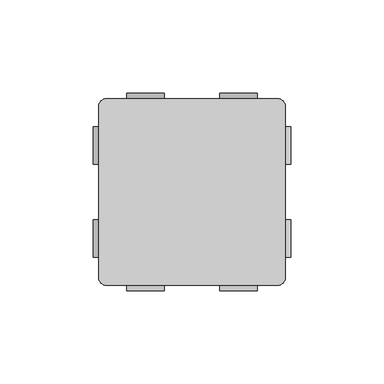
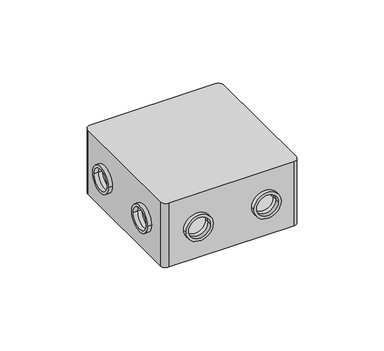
"""IFC4 building model written with IfcOpenShell, lengths in millimetres: proxy geometry, 20308_ジョイントボックス_強電用 : 照明設備."""

from ifc_helpers import new_model, si_unit, point, frame, frame_2d, origin, place, context, project, spatial, polyline, circle_curve, trimmed, segment, composite_curve, outline, extrude, source, transform, mapped, element, save
from ifc_brep_helpers import plane_surface, cylinder_surface, revolved_surface, advanced_brep


def electrical_fixtures_9a8084c4(model_context):
    return source(origin(), model_context, "Body", "SolidModel", [
        extrude(outline(composite_curve([segment(trimmed(circle_curve(frame_2d((25.0, 25.0)), 10.0), [point((15.0, 25.0))], [point((35.0, 25.0))], False, "CARTESIAN"), True, "CONTINUOUS"), segment(trimmed(circle_curve(frame_2d((25.0, 25.0)), 10.0), [point((35.0, 25.0))], [point((15.0, 25.0))], False, "CARTESIAN"), True, "CONTINUOUS")], self_intersect=False), holes=[composite_curve([segment(trimmed(circle_curve(frame_2d((25.0, 25.0)), 8.0), [point((17.0, 25.0))], [point((33.0, 25.0))], True, "CARTESIAN"), True, "CONTINUOUS"), segment(trimmed(circle_curve(frame_2d((25.0, 25.0)), 8.0), [point((33.0, 25.0))], [point((17.0, 25.0))], True, "CARTESIAN"), True, "CONTINUOUS")], self_intersect=False)]), frame((-53.0, 0.0, 0.0), z_axis=(1.0, 0.0, 0.0), x_axis=(0.0, 1.0, 0.0)), (0.0, 0.0, 1.0), 3.0),
        extrude(outline(composite_curve([segment(trimmed(circle_curve(frame_2d((-25.0, 25.0)), 10.0), [point((-35.0, 25.0))], [point((-15.0, 25.0))], False, "CARTESIAN"), True, "CONTINUOUS"), segment(trimmed(circle_curve(frame_2d((-25.0, 25.0)), 10.0), [point((-15.0, 25.0))], [point((-35.0, 25.0))], False, "CARTESIAN"), True, "CONTINUOUS")], self_intersect=False), holes=[composite_curve([segment(trimmed(circle_curve(frame_2d((-25.0, 25.0)), 8.0), [point((-33.0, 25.0))], [point((-17.0, 25.0))], True, "CARTESIAN"), True, "CONTINUOUS"), segment(trimmed(circle_curve(frame_2d((-25.0, 25.0)), 8.0), [point((-17.0, 25.0))], [point((-33.0, 25.0))], True, "CARTESIAN"), True, "CONTINUOUS")], self_intersect=False)]), frame((-53.0, 0.0, 0.0), z_axis=(1.0, 0.0, 0.0), x_axis=(0.0, 1.0, 0.0)), (0.0, 0.0, 1.0), 3.0),
        extrude(outline(composite_curve([segment(trimmed(circle_curve(frame_2d((25.0, 25.0)), 10.0), [point((15.0, 25.0))], [point((35.0, 25.0))], False, "CARTESIAN"), True, "CONTINUOUS"), segment(trimmed(circle_curve(frame_2d((25.0, 25.0)), 10.0), [point((35.0, 25.0))], [point((15.0, 25.0))], False, "CARTESIAN"), True, "CONTINUOUS")], self_intersect=False), holes=[composite_curve([segment(trimmed(circle_curve(frame_2d((25.0, 25.0)), 8.0), [point((17.0, 25.0))], [point((33.0, 25.0))], True, "CARTESIAN"), True, "CONTINUOUS"), segment(trimmed(circle_curve(frame_2d((25.0, 25.0)), 8.0), [point((33.0, 25.0))], [point((17.0, 25.0))], True, "CARTESIAN"), True, "CONTINUOUS")], self_intersect=False)]), frame((50.0, 0.0, 0.0), z_axis=(1.0, 0.0, 0.0), x_axis=(0.0, 1.0, 0.0)), (0.0, 0.0, 1.0), 3.0),
        extrude(outline(composite_curve([segment(trimmed(circle_curve(frame_2d((-25.0, 25.0)), 10.0), [point((-35.0, 25.0))], [point((-15.0, 25.0))], False, "CARTESIAN"), True, "CONTINUOUS"), segment(trimmed(circle_curve(frame_2d((-25.0, 25.0)), 10.0), [point((-15.0, 25.0))], [point((-35.0, 25.0))], False, "CARTESIAN"), True, "CONTINUOUS")], self_intersect=False), holes=[composite_curve([segment(trimmed(circle_curve(frame_2d((-25.0, 25.0)), 8.0), [point((-33.0, 25.0))], [point((-17.0, 25.0))], True, "CARTESIAN"), True, "CONTINUOUS"), segment(trimmed(circle_curve(frame_2d((-25.0, 25.0)), 8.0), [point((-17.0, 25.0))], [point((-33.0, 25.0))], True, "CARTESIAN"), True, "CONTINUOUS")], self_intersect=False)]), frame((50.0, 0.0, 0.0), z_axis=(1.0, 0.0, 0.0), x_axis=(0.0, 1.0, 0.0)), (0.0, 0.0, 1.0), 3.0),
        extrude(outline(composite_curve([segment(trimmed(circle_curve(frame_2d((25.0, -25.0)), 10.0), [point((25.0, -15.0))], [point((25.0, -35.0))], False, "CARTESIAN"), True, "CONTINUOUS"), segment(trimmed(circle_curve(frame_2d((25.0, -25.0)), 10.0), [point((25.0, -35.0))], [point((25.0, -15.0))], False, "CARTESIAN"), True, "CONTINUOUS")], self_intersect=False), holes=[composite_curve([segment(trimmed(circle_curve(frame_2d((25.0, -25.0)), 8.0), [point((25.0, -17.0))], [point((25.0, -33.0))], True, "CARTESIAN"), True, "CONTINUOUS"), segment(trimmed(circle_curve(frame_2d((25.0, -25.0)), 8.0), [point((25.0, -33.0))], [point((25.0, -17.0))], True, "CARTESIAN"), True, "CONTINUOUS")], self_intersect=False)]), frame((0.0, 50.0, 0.0), z_axis=(0.0, 1.0, 0.0), x_axis=(0.0, 0.0, 1.0)), (0.0, 0.0, 1.0), 3.0),
        extrude(outline(composite_curve([segment(trimmed(circle_curve(frame_2d((25.0, 25.0)), 10.0), [point((25.0, 15.0))], [point((25.0, 35.0))], False, "CARTESIAN"), True, "CONTINUOUS"), segment(trimmed(circle_curve(frame_2d((25.0, 25.0)), 10.0), [point((25.0, 35.0))], [point((25.0, 15.0))], False, "CARTESIAN"), True, "CONTINUOUS")], self_intersect=False), holes=[composite_curve([segment(trimmed(circle_curve(frame_2d((25.0, 25.0)), 8.0), [point((25.0, 17.0))], [point((25.0, 33.0))], True, "CARTESIAN"), True, "CONTINUOUS"), segment(trimmed(circle_curve(frame_2d((25.0, 25.0)), 8.0), [point((25.0, 33.0))], [point((25.0, 17.0))], True, "CARTESIAN"), True, "CONTINUOUS")], self_intersect=False)]), frame((0.0, 50.0, 0.0), z_axis=(0.0, 1.0, 0.0), x_axis=(0.0, 0.0, 1.0)), (0.0, 0.0, 1.0), 3.0),
        extrude(outline(composite_curve([segment(trimmed(circle_curve(frame_2d((25.0, -25.0)), 10.0), [point((25.0, -15.0))], [point((25.0, -35.0))], False, "CARTESIAN"), True, "CONTINUOUS"), segment(trimmed(circle_curve(frame_2d((25.0, -25.0)), 10.0), [point((25.0, -35.0))], [point((25.0, -15.0))], False, "CARTESIAN"), True, "CONTINUOUS")], self_intersect=False), holes=[composite_curve([segment(trimmed(circle_curve(frame_2d((25.0, -25.0)), 8.0), [point((25.0, -17.0))], [point((25.0, -33.0))], True, "CARTESIAN"), True, "CONTINUOUS"), segment(trimmed(circle_curve(frame_2d((25.0, -25.0)), 8.0), [point((25.0, -33.0))], [point((25.0, -17.0))], True, "CARTESIAN"), True, "CONTINUOUS")], self_intersect=False)]), frame((0.0, -53.0, 0.0), z_axis=(0.0, 1.0, 0.0), x_axis=(0.0, 0.0, 1.0)), (0.0, 0.0, 1.0), 3.0),
        extrude(outline(composite_curve([segment(trimmed(circle_curve(frame_2d((25.0, 25.0)), 10.0), [point((25.0, 15.0))], [point((25.0, 35.0))], False, "CARTESIAN"), True, "CONTINUOUS"), segment(trimmed(circle_curve(frame_2d((25.0, 25.0)), 10.0), [point((25.0, 35.0))], [point((25.0, 15.0))], False, "CARTESIAN"), True, "CONTINUOUS")], self_intersect=False), holes=[composite_curve([segment(trimmed(circle_curve(frame_2d((25.0, 25.0)), 8.0), [point((25.0, 17.0))], [point((25.0, 33.0))], True, "CARTESIAN"), True, "CONTINUOUS"), segment(trimmed(circle_curve(frame_2d((25.0, 25.0)), 8.0), [point((25.0, 33.0))], [point((25.0, 17.0))], True, "CARTESIAN"), True, "CONTINUOUS")], self_intersect=False)]), frame((0.0, -53.0, 0.0), z_axis=(0.0, 1.0, 0.0), x_axis=(0.0, 0.0, 1.0)), (0.0, 0.0, 1.0), 3.0),
        advanced_brep(
        [(40.0, -36.9820829, 1.0), (40.0, -43.0179171, 1.0), (40.0, -36.9820829, 0.0), (40.0, -43.0179171, 0.0), (40.5, -37.6708132, 0.0), (39.5, -37.6708132, 0.0), (39.5, -38.7, 0.0), (38.7, -39.5, 0.0), (37.6708132, -39.5, 0.0), (37.6708132, -40.5, 0.0), (38.7035028, -40.5, 0.0), (39.5, -41.2964972, 0.0), (39.5, -42.3291868, 0.0), (40.5, -42.3291868, 0.0), (40.5, -41.2574077, 0.0), (41.2574077, -40.5, 0.0), (42.3291868, -40.5, 0.0), (42.3291868, -39.5, 0.0), (41.3144051, -39.5, 0.0), (40.5, -38.6855949, 0.0), (40.5, -37.6708132, 0.2), (40.5, -38.6855949, 0.2), (41.3144051, -39.5, 0.2), (42.3291868, -39.5, 0.2), (42.3291868, -40.5, 0.2), (41.2574077, -40.5, 0.2), (40.5, -41.2574077, 0.2), (40.5, -42.3291868, 0.2), (39.5, -42.3291868, 0.2), (39.5, -41.2964972, 0.2), (38.7035028, -40.5, 0.2), (37.6708132, -40.5, 0.2), (37.6708132, -39.5, 0.2), (38.7, -39.5, 0.2), (39.5, -38.7, 0.2), (39.5, -37.6708132, 0.2)],
        [
            (0, 1, circle_curve(frame((40.0, -40.0, 1.0), z_axis=(0.0, 0.0, 1.0), x_axis=(0.0, -1.0, 0.0)), 3.0179171)),
            (1, 0, circle_curve(frame((40.0, -40.0, 1.0), z_axis=(0.0, 0.0, 1.0), x_axis=(0.0, -1.0, 0.0)), 3.0179171)),
            (2, 3, circle_curve(frame((40.0, -40.0, 0.0), z_axis=(0.0, 0.0, -1.0), x_axis=(0.0, -1.0, 0.0)), 3.0179171)),
            (3, 2, circle_curve(frame((40.0, -40.0, 0.0), z_axis=(0.0, 0.0, -1.0), x_axis=(0.0, -1.0, 0.0)), 3.0179171)),
            (4, 5),
            (5, 6),
            (6, 7, circle_curve(frame((38.7, -38.7, 0.0), z_axis=(0.0, 0.0, -1.0), x_axis=(1.0, 0.0, 0.0)), 0.8)),
            (7, 8),
            (8, 9),
            (9, 10),
            (10, 11, circle_curve(frame((38.7035028, -41.2964972, 0.0), z_axis=(0.0, 0.0, -1.0), x_axis=(1.0, 0.0, 0.0)), 0.7964972)),
            (11, 12),
            (12, 13),
            (13, 14),
            (14, 15, circle_curve(frame((41.2574077, -41.2574077, 0.0), z_axis=(0.0, 0.0, -1.0), x_axis=(1.0, 0.0, 0.0)), 0.7574077)),
            (15, 16),
            (16, 17),
            (17, 18),
            (18, 19, circle_curve(frame((41.3144051, -38.6855949, 0.0), z_axis=(0.0, 0.0, -1.0), x_axis=(1.0, 0.0, 0.0)), 0.8144051)),
            (19, 4),
            (1, 3),
            (2, 0),
            (20, 21),
            (21, 22, circle_curve(frame((41.3144051, -38.6855949, 0.2), z_axis=(0.0, 0.0, 1.0), x_axis=(1.0, 0.0, 0.0)), 0.8144051)),
            (22, 23),
            (23, 24),
            (24, 25),
            (25, 26, circle_curve(frame((41.2574077, -41.2574077, 0.2), z_axis=(0.0, 0.0, 1.0), x_axis=(1.0, 0.0, 0.0)), 0.7574077)),
            (26, 27),
            (27, 28),
            (28, 29),
            (29, 30, circle_curve(frame((38.7035028, -41.2964972, 0.2), z_axis=(0.0, 0.0, 1.0), x_axis=(1.0, 0.0, 0.0)), 0.7964972)),
            (30, 31),
            (31, 32),
            (32, 33),
            (33, 34, circle_curve(frame((38.7, -38.7, 0.2), z_axis=(0.0, 0.0, 1.0), x_axis=(1.0, 0.0, 0.0)), 0.8)),
            (34, 35),
            (35, 20),
            (35, 5),
            (4, 20),
            (34, 6),
            (33, 7),
            (32, 8),
            (31, 9),
            (30, 10),
            (29, 11),
            (28, 12),
            (27, 13),
            (26, 14),
            (25, 15),
            (24, 16),
            (23, 17),
            (22, 18),
            (21, 19),
        ],
        [
            plane_surface(frame((40.0, -43.0179171, 1.0), z_axis=(0.0, 0.0, 1.0), x_axis=(1.0, 0.0, 0.0))),
            plane_surface(frame((40.0, -43.0179171, 0.0), z_axis=(0.0, 0.0, -1.0), x_axis=(-1.0, 0.0, 0.0))),
            cylinder_surface(frame((40.0, -40.0, 1.0), z_axis=(0.0, 0.0, -1.0), x_axis=(0.0, -1.0, 0.0)), 3.0179171),
            plane_surface(frame((39.5, -37.6708132, 0.2), z_axis=(0.0, 0.0, -1.0), x_axis=(-1.0, 0.0, 0.0))),
            plane_surface(frame((40.5, -37.6708132, 0.2), z_axis=(0.0, -1.0, 0.0), x_axis=(0.0, 0.0, -1.0))),
            plane_surface(frame((39.5, -37.6708132, 0.2), z_axis=(1.0, 0.0, 0.0), x_axis=(0.0, 0.0, -1.0))),
            cylinder_surface(frame((38.7, -38.7, -3.0), z_axis=(0.0, 0.0, -1.0), x_axis=(1.0, 0.0, 0.0)), 0.8),
            plane_surface(frame((38.7, -39.5, 0.2), z_axis=(0.0, -1.0, 0.0), x_axis=(0.0, 0.0, -1.0))),
            plane_surface(frame((37.6708132, -39.5, 0.2), z_axis=(1.0, 0.0, 0.0), x_axis=(0.0, 0.0, -1.0))),
            plane_surface(frame((37.6708132, -40.5, 0.2), z_axis=(0.0, 1.0, 0.0), x_axis=(0.0, 0.0, -1.0))),
            cylinder_surface(frame((38.7035028, -41.2964972, -3.0), z_axis=(0.0, 0.0, -1.0), x_axis=(1.0, 0.0, 0.0)), 0.7964972),
            plane_surface(frame((39.5, -41.2964972, 0.2), z_axis=(1.0, 0.0, 0.0), x_axis=(0.0, 0.0, -1.0))),
            plane_surface(frame((39.5, -42.3291868, 0.2), z_axis=(0.0, 1.0, 0.0), x_axis=(0.0, 0.0, -1.0))),
            plane_surface(frame((40.5, -42.3291868, 0.2), z_axis=(-1.0, 0.0, 0.0), x_axis=(0.0, 0.0, -1.0))),
            cylinder_surface(frame((41.2574077, -41.2574077, -3.0), z_axis=(0.0, 0.0, -1.0), x_axis=(1.0, 0.0, 0.0)), 0.7574077),
            plane_surface(frame((41.2574077, -40.5, 0.2), z_axis=(0.0, 1.0, 0.0), x_axis=(0.0, 0.0, -1.0))),
            plane_surface(frame((42.3291868, -40.5, 0.2), z_axis=(-1.0, 0.0, 0.0), x_axis=(0.0, 0.0, -1.0))),
            plane_surface(frame((42.3291868, -39.5, 0.2), z_axis=(0.0, -1.0, 0.0), x_axis=(0.0, 0.0, -1.0))),
            cylinder_surface(frame((41.3144051, -38.6855949, -3.0), z_axis=(0.0, 0.0, -1.0), x_axis=(1.0, 0.0, 0.0)), 0.8144051),
            plane_surface(frame((40.5, -38.6855949, 0.2), z_axis=(-1.0, 0.0, 0.0), x_axis=(0.0, 0.0, -1.0))),
        ],
        [
            (0, [[1, 2]]),
            (1, [[3, 4], [5, 6, 7, 8, 9, 10, 11, 12, 13, 14, 15, 16, 17, 18, 19, 20]]),
            (2, [[-2, 21, -3, 22]]),
            (2, [[-1, -22, -4, -21]]),
            (3, [[23, 24, 25, 26, 27, 28, 29, 30, 31, 32, 33, 34, 35, 36, 37, 38]]),
            (4, [[-38, 39, -5, 40]]),
            (5, [[-37, 41, -6, -39]]),
            (6, [[-36, 42, -7, -41]]),
            (7, [[-35, 43, -8, -42]]),
            (8, [[-34, 44, -9, -43]]),
            (9, [[-33, 45, -10, -44]]),
            (10, [[-32, 46, -11, -45]]),
            (11, [[-31, 47, -12, -46]]),
            (12, [[-30, 48, -13, -47]]),
            (13, [[-29, 49, -14, -48]]),
            (14, [[-28, 50, -15, -49]]),
            (15, [[-27, 51, -16, -50]]),
            (16, [[-26, 52, -17, -51]]),
            (17, [[-25, 53, -18, -52]]),
            (18, [[-24, 54, -19, -53]]),
            (19, [[-23, -40, -20, -54]]),
        ],
    ),
        advanced_brep(
        [(-40.0, -43.0179171, 1.0), (-40.0, -36.9820829, 1.0), (-40.0, -43.0179171, 0.0), (-40.0, -36.9820829, 0.0), (-39.5, -37.6708132, 0.0), (-40.5, -37.6708132, 0.0), (-40.5, -38.7, 0.0), (-41.3, -39.5, 0.0), (-42.3291868, -39.5, 0.0), (-42.3291868, -40.5, 0.0), (-41.2964972, -40.5, 0.0), (-40.5, -41.2964972, 0.0), (-40.5, -42.3291868, 0.0), (-39.5, -42.3291868, 0.0), (-39.5, -41.2574077, 0.0), (-38.7425923, -40.5, 0.0), (-37.6708132, -40.5, 0.0), (-37.6708132, -39.5, 0.0), (-38.6855949, -39.5, 0.0), (-39.5, -38.6855949, 0.0), (-39.5, -37.6708132, 0.2), (-39.5, -38.6855949, 0.2), (-38.6855949, -39.5, 0.2), (-37.6708132, -39.5, 0.2), (-37.6708132, -40.5, 0.2), (-38.7425923, -40.5, 0.2), (-39.5, -41.2574077, 0.2), (-39.5, -42.3291868, 0.2), (-40.5, -42.3291868, 0.2), (-40.5, -41.2964972, 0.2), (-41.2964972, -40.5, 0.2), (-42.3291868, -40.5, 0.2), (-42.3291868, -39.5, 0.2), (-41.3, -39.5, 0.2), (-40.5, -38.7, 0.2), (-40.5, -37.6708132, 0.2)],
        [
            (0, 1, circle_curve(frame((-40.0, -40.0, 1.0), z_axis=(0.0, 0.0, 1.0), x_axis=(0.0, 1.0, 0.0)), 3.0179171)),
            (1, 0, circle_curve(frame((-40.0, -40.0, 1.0), z_axis=(0.0, 0.0, 1.0), x_axis=(0.0, 1.0, 0.0)), 3.0179171)),
            (2, 3, circle_curve(frame((-40.0, -40.0, 0.0), z_axis=(0.0, 0.0, -1.0), x_axis=(0.0, 1.0, 0.0)), 3.0179171)),
            (3, 2, circle_curve(frame((-40.0, -40.0, 0.0), z_axis=(0.0, 0.0, -1.0), x_axis=(0.0, 1.0, 0.0)), 3.0179171)),
            (4, 5),
            (5, 6),
            (6, 7, circle_curve(frame((-41.3, -38.7, 0.0), z_axis=(0.0, 0.0, -1.0), x_axis=(1.0, 0.0, 0.0)), 0.8)),
            (7, 8),
            (8, 9),
            (9, 10),
            (10, 11, circle_curve(frame((-41.2964972, -41.2964972, 0.0), z_axis=(0.0, 0.0, -1.0), x_axis=(1.0, 0.0, 0.0)), 0.7964972)),
            (11, 12),
            (12, 13),
            (13, 14),
            (14, 15, circle_curve(frame((-38.7425923, -41.2574077, 0.0), z_axis=(0.0, 0.0, -1.0), x_axis=(1.0, 0.0, 0.0)), 0.7574077)),
            (15, 16),
            (16, 17),
            (17, 18),
            (18, 19, circle_curve(frame((-38.6855949, -38.6855949, 0.0), z_axis=(0.0, 0.0, -1.0), x_axis=(1.0, 0.0, 0.0)), 0.8144051)),
            (19, 4),
            (0, 2),
            (3, 1),
            (20, 21),
            (21, 22, circle_curve(frame((-38.6855949, -38.6855949, 0.2), z_axis=(0.0, 0.0, 1.0), x_axis=(1.0, 0.0, 0.0)), 0.8144051)),
            (22, 23),
            (23, 24),
            (24, 25),
            (25, 26, circle_curve(frame((-38.7425923, -41.2574077, 0.2), z_axis=(0.0, 0.0, 1.0), x_axis=(1.0, 0.0, 0.0)), 0.7574077)),
            (26, 27),
            (27, 28),
            (28, 29),
            (29, 30, circle_curve(frame((-41.2964972, -41.2964972, 0.2), z_axis=(0.0, 0.0, 1.0), x_axis=(1.0, 0.0, 0.0)), 0.7964972)),
            (30, 31),
            (31, 32),
            (32, 33),
            (33, 34, circle_curve(frame((-41.3, -38.7, 0.2), z_axis=(0.0, 0.0, 1.0), x_axis=(1.0, 0.0, 0.0)), 0.8)),
            (34, 35),
            (35, 20),
            (35, 5),
            (4, 20),
            (34, 6),
            (33, 7),
            (32, 8),
            (31, 9),
            (30, 10),
            (29, 11),
            (28, 12),
            (27, 13),
            (26, 14),
            (25, 15),
            (24, 16),
            (23, 17),
            (22, 18),
            (21, 19),
        ],
        [
            plane_surface(frame((-40.0, -36.9820829, 1.0), z_axis=(0.0, 0.0, 1.0), x_axis=(-1.0, 0.0, 0.0))),
            plane_surface(frame((-40.0, -36.9820829, 0.0), z_axis=(0.0, 0.0, -1.0), x_axis=(1.0, 0.0, 0.0))),
            cylinder_surface(frame((-40.0, -40.0, 1.0), z_axis=(0.0, 0.0, -1.0), x_axis=(0.0, 1.0, 0.0)), 3.0179171),
            plane_surface(frame((-40.5, -37.6708132, 0.2), z_axis=(0.0, 0.0, -1.0), x_axis=(-1.0, 0.0, 0.0))),
            plane_surface(frame((-39.5, -37.6708132, 0.2), z_axis=(0.0, -1.0, 0.0), x_axis=(0.0, 0.0, -1.0))),
            plane_surface(frame((-40.5, -37.6708132, 0.2), z_axis=(1.0, 0.0, 0.0), x_axis=(0.0, 0.0, -1.0))),
            cylinder_surface(frame((-41.3, -38.7, -3.0), z_axis=(0.0, 0.0, -1.0), x_axis=(1.0, 0.0, 0.0)), 0.8),
            plane_surface(frame((-41.3, -39.5, 0.2), z_axis=(0.0, -1.0, 0.0), x_axis=(0.0, 0.0, -1.0))),
            plane_surface(frame((-42.3291868, -39.5, 0.2), z_axis=(1.0, 0.0, 0.0), x_axis=(0.0, 0.0, -1.0))),
            plane_surface(frame((-42.3291868, -40.5, 0.2), z_axis=(0.0, 1.0, 0.0), x_axis=(0.0, 0.0, -1.0))),
            cylinder_surface(frame((-41.2964972, -41.2964972, -3.0), z_axis=(0.0, 0.0, -1.0), x_axis=(1.0, 0.0, 0.0)), 0.7964972),
            plane_surface(frame((-40.5, -41.2964972, 0.2), z_axis=(1.0, 0.0, 0.0), x_axis=(0.0, 0.0, -1.0))),
            plane_surface(frame((-40.5, -42.3291868, 0.2), z_axis=(0.0, 1.0, 0.0), x_axis=(0.0, 0.0, -1.0))),
            plane_surface(frame((-39.5, -42.3291868, 0.2), z_axis=(-1.0, 0.0, 0.0), x_axis=(0.0, 0.0, -1.0))),
            cylinder_surface(frame((-38.7425923, -41.2574077, -3.0), z_axis=(0.0, 0.0, -1.0), x_axis=(1.0, 0.0, 0.0)), 0.7574077),
            plane_surface(frame((-38.7425923, -40.5, 0.2), z_axis=(0.0, 1.0, 0.0), x_axis=(0.0, 0.0, -1.0))),
            plane_surface(frame((-37.6708132, -40.5, 0.2), z_axis=(-1.0, 0.0, 0.0), x_axis=(0.0, 0.0, -1.0))),
            plane_surface(frame((-37.6708132, -39.5, 0.2), z_axis=(0.0, -1.0, 0.0), x_axis=(0.0, 0.0, -1.0))),
            cylinder_surface(frame((-38.6855949, -38.6855949, -3.0), z_axis=(0.0, 0.0, -1.0), x_axis=(1.0, 0.0, 0.0)), 0.8144051),
            plane_surface(frame((-39.5, -38.6855949, 0.2), z_axis=(-1.0, 0.0, 0.0), x_axis=(0.0, 0.0, -1.0))),
        ],
        [
            (0, [[1, 2]]),
            (1, [[3, 4], [5, 6, 7, 8, 9, 10, 11, 12, 13, 14, 15, 16, 17, 18, 19, 20]]),
            (2, [[-1, 21, -4, 22]]),
            (2, [[-2, -22, -3, -21]]),
            (3, [[23, 24, 25, 26, 27, 28, 29, 30, 31, 32, 33, 34, 35, 36, 37, 38]]),
            (4, [[-38, 39, -5, 40]]),
            (5, [[-37, 41, -6, -39]]),
            (6, [[-36, 42, -7, -41]]),
            (7, [[-35, 43, -8, -42]]),
            (8, [[-34, 44, -9, -43]]),
            (9, [[-33, 45, -10, -44]]),
            (10, [[-32, 46, -11, -45]]),
            (11, [[-31, 47, -12, -46]]),
            (12, [[-30, 48, -13, -47]]),
            (13, [[-29, 49, -14, -48]]),
            (14, [[-28, 50, -15, -49]]),
            (15, [[-27, 51, -16, -50]]),
            (16, [[-26, 52, -17, -51]]),
            (17, [[-25, 53, -18, -52]]),
            (18, [[-24, 54, -19, -53]]),
            (19, [[-23, -40, -20, -54]]),
        ],
    ),
        advanced_brep(
        [(40.0, 43.0179171, 1.0), (40.0, 36.9820829, 1.0), (40.0, 43.0179171, 0.0), (40.0, 36.9820829, 0.0), (40.5, 42.3291868, 0.0), (39.5, 42.3291868, 0.0), (39.5, 41.3, 0.0), (38.7, 40.5, 0.0), (37.6708132, 40.5, 0.0), (37.6708132, 39.5, 0.0), (38.7035028, 39.5, 0.0), (39.5, 38.7035028, 0.0), (39.5, 37.6708132, 0.0), (40.5, 37.6708132, 0.0), (40.5, 38.7425923, 0.0), (41.2574077, 39.5, 0.0), (42.3291868, 39.5, 0.0), (42.3291868, 40.5, 0.0), (41.3144051, 40.5, 0.0), (40.5, 41.3144051, 0.0), (40.5, 42.3291868, 0.2), (40.5, 41.3144051, 0.2), (41.3144051, 40.5, 0.2), (42.3291868, 40.5, 0.2), (42.3291868, 39.5, 0.2), (41.2574077, 39.5, 0.2), (40.5, 38.7425923, 0.2), (40.5, 37.6708132, 0.2), (39.5, 37.6708132, 0.2), (39.5, 38.7035028, 0.2), (38.7035028, 39.5, 0.2), (37.6708132, 39.5, 0.2), (37.6708132, 40.5, 0.2), (38.7, 40.5, 0.2), (39.5, 41.3, 0.2), (39.5, 42.3291868, 0.2)],
        [
            (0, 1, circle_curve(frame((40.0, 40.0, 1.0), z_axis=(0.0, 0.0, 1.0), x_axis=(0.0, -1.0, 0.0)), 3.0179171)),
            (1, 0, circle_curve(frame((40.0, 40.0, 1.0), z_axis=(0.0, 0.0, 1.0), x_axis=(0.0, -1.0, 0.0)), 3.0179171)),
            (2, 3, circle_curve(frame((40.0, 40.0, 0.0), z_axis=(0.0, 0.0, -1.0), x_axis=(0.0, -1.0, 0.0)), 3.0179171)),
            (3, 2, circle_curve(frame((40.0, 40.0, 0.0), z_axis=(0.0, 0.0, -1.0), x_axis=(0.0, -1.0, 0.0)), 3.0179171)),
            (4, 5),
            (5, 6),
            (6, 7, circle_curve(frame((38.7, 41.3, 0.0), z_axis=(0.0, 0.0, -1.0), x_axis=(1.0, 0.0, 0.0)), 0.8)),
            (7, 8),
            (8, 9),
            (9, 10),
            (10, 11, circle_curve(frame((38.7035028, 38.7035028, 0.0), z_axis=(0.0, 0.0, -1.0), x_axis=(1.0, 0.0, 0.0)), 0.7964972)),
            (11, 12),
            (12, 13),
            (13, 14),
            (14, 15, circle_curve(frame((41.2574077, 38.7425923, 0.0), z_axis=(0.0, 0.0, -1.0), x_axis=(1.0, 0.0, 0.0)), 0.7574077)),
            (15, 16),
            (16, 17),
            (17, 18),
            (18, 19, circle_curve(frame((41.3144051, 41.3144051, 0.0), z_axis=(0.0, 0.0, -1.0), x_axis=(1.0, 0.0, 0.0)), 0.8144051)),
            (19, 4),
            (0, 2),
            (3, 1),
            (20, 21),
            (21, 22, circle_curve(frame((41.3144051, 41.3144051, 0.2), z_axis=(0.0, 0.0, 1.0), x_axis=(1.0, 0.0, 0.0)), 0.8144051)),
            (22, 23),
            (23, 24),
            (24, 25),
            (25, 26, circle_curve(frame((41.2574077, 38.7425923, 0.2), z_axis=(0.0, 0.0, 1.0), x_axis=(1.0, 0.0, 0.0)), 0.7574077)),
            (26, 27),
            (27, 28),
            (28, 29),
            (29, 30, circle_curve(frame((38.7035028, 38.7035028, 0.2), z_axis=(0.0, 0.0, 1.0), x_axis=(1.0, 0.0, 0.0)), 0.7964972)),
            (30, 31),
            (31, 32),
            (32, 33),
            (33, 34, circle_curve(frame((38.7, 41.3, 0.2), z_axis=(0.0, 0.0, 1.0), x_axis=(1.0, 0.0, 0.0)), 0.8)),
            (34, 35),
            (35, 20),
            (35, 5),
            (4, 20),
            (34, 6),
            (33, 7),
            (32, 8),
            (31, 9),
            (30, 10),
            (29, 11),
            (28, 12),
            (27, 13),
            (26, 14),
            (25, 15),
            (24, 16),
            (23, 17),
            (22, 18),
            (21, 19),
        ],
        [
            plane_surface(frame((40.0, 36.9820829, 1.0), z_axis=(0.0, 0.0, 1.0), x_axis=(1.0, 0.0, 0.0))),
            plane_surface(frame((40.0, 36.9820829, 0.0), z_axis=(0.0, 0.0, -1.0), x_axis=(-1.0, 0.0, 0.0))),
            cylinder_surface(frame((40.0, 40.0, 1.0), z_axis=(0.0, 0.0, -1.0), x_axis=(0.0, -1.0, 0.0)), 3.0179171),
            plane_surface(frame((39.5, 42.3291868, 0.2), z_axis=(0.0, 0.0, -1.0), x_axis=(-1.0, 0.0, 0.0))),
            plane_surface(frame((40.5, 42.3291868, 0.2), z_axis=(0.0, -1.0, 0.0), x_axis=(0.0, 0.0, -1.0))),
            plane_surface(frame((39.5, 42.3291868, 0.2), z_axis=(1.0, 0.0, 0.0), x_axis=(0.0, 0.0, -1.0))),
            cylinder_surface(frame((38.7, 41.3, -3.0), z_axis=(0.0, 0.0, -1.0), x_axis=(1.0, 0.0, 0.0)), 0.8),
            plane_surface(frame((38.7, 40.5, 0.2), z_axis=(0.0, -1.0, 0.0), x_axis=(0.0, 0.0, -1.0))),
            plane_surface(frame((37.6708132, 40.5, 0.2), z_axis=(1.0, 0.0, 0.0), x_axis=(0.0, 0.0, -1.0))),
            plane_surface(frame((37.6708132, 39.5, 0.2), z_axis=(0.0, 1.0, 0.0), x_axis=(0.0, 0.0, -1.0))),
            cylinder_surface(frame((38.7035028, 38.7035028, -3.0), z_axis=(0.0, 0.0, -1.0), x_axis=(1.0, 0.0, 0.0)), 0.7964972),
            plane_surface(frame((39.5, 38.7035028, 0.2), z_axis=(1.0, 0.0, 0.0), x_axis=(0.0, 0.0, -1.0))),
            plane_surface(frame((39.5, 37.6708132, 0.2), z_axis=(0.0, 1.0, 0.0), x_axis=(0.0, 0.0, -1.0))),
            plane_surface(frame((40.5, 37.6708132, 0.2), z_axis=(-1.0, 0.0, 0.0), x_axis=(0.0, 0.0, -1.0))),
            cylinder_surface(frame((41.2574077, 38.7425923, -3.0), z_axis=(0.0, 0.0, -1.0), x_axis=(1.0, 0.0, 0.0)), 0.7574077),
            plane_surface(frame((41.2574077, 39.5, 0.2), z_axis=(0.0, 1.0, 0.0), x_axis=(0.0, 0.0, -1.0))),
            plane_surface(frame((42.3291868, 39.5, 0.2), z_axis=(-1.0, 0.0, 0.0), x_axis=(0.0, 0.0, -1.0))),
            plane_surface(frame((42.3291868, 40.5, 0.2), z_axis=(0.0, -1.0, 0.0), x_axis=(0.0, 0.0, -1.0))),
            cylinder_surface(frame((41.3144051, 41.3144051, -3.0), z_axis=(0.0, 0.0, -1.0), x_axis=(1.0, 0.0, 0.0)), 0.8144051),
            plane_surface(frame((40.5, 41.3144051, 0.2), z_axis=(-1.0, 0.0, 0.0), x_axis=(0.0, 0.0, -1.0))),
        ],
        [
            (0, [[1, 2]]),
            (1, [[3, 4], [5, 6, 7, 8, 9, 10, 11, 12, 13, 14, 15, 16, 17, 18, 19, 20]]),
            (2, [[-1, 21, -4, 22]]),
            (2, [[-2, -22, -3, -21]]),
            (3, [[23, 24, 25, 26, 27, 28, 29, 30, 31, 32, 33, 34, 35, 36, 37, 38]]),
            (4, [[-38, 39, -5, 40]]),
            (5, [[-37, 41, -6, -39]]),
            (6, [[-36, 42, -7, -41]]),
            (7, [[-35, 43, -8, -42]]),
            (8, [[-34, 44, -9, -43]]),
            (9, [[-33, 45, -10, -44]]),
            (10, [[-32, 46, -11, -45]]),
            (11, [[-31, 47, -12, -46]]),
            (12, [[-30, 48, -13, -47]]),
            (13, [[-29, 49, -14, -48]]),
            (14, [[-28, 50, -15, -49]]),
            (15, [[-27, 51, -16, -50]]),
            (16, [[-26, 52, -17, -51]]),
            (17, [[-25, 53, -18, -52]]),
            (18, [[-24, 54, -19, -53]]),
            (19, [[-23, -40, -20, -54]]),
        ],
    ),
        advanced_brep(
        [(-40.0, 36.9820829, 1.0), (-40.0, 43.0179171, 1.0), (-40.0, 36.9820829, 0.0), (-40.0, 43.0179171, 0.0), (-39.5, 42.3291868, 0.0), (-40.5, 42.3291868, 0.0), (-40.5, 41.3, 0.0), (-41.3, 40.5, 0.0), (-42.3291868, 40.5, 0.0), (-42.3291868, 39.5, 0.0), (-41.2964972, 39.5, 0.0), (-40.5, 38.7035028, 0.0), (-40.5, 37.6708132, 0.0), (-39.5, 37.6708132, 0.0), (-39.5, 38.7425923, 0.0), (-38.7425923, 39.5, 0.0), (-37.6708132, 39.5, 0.0), (-37.6708132, 40.5, 0.0), (-38.6855949, 40.5, 0.0), (-39.5, 41.3144051, 0.0), (-39.5, 42.3291868, 0.2), (-39.5, 41.3144051, 0.2), (-38.6855949, 40.5, 0.2), (-37.6708132, 40.5, 0.2), (-37.6708132, 39.5, 0.2), (-38.7425923, 39.5, 0.2), (-39.5, 38.7425923, 0.2), (-39.5, 37.6708132, 0.2), (-40.5, 37.6708132, 0.2), (-40.5, 38.7035028, 0.2), (-41.2964972, 39.5, 0.2), (-42.3291868, 39.5, 0.2), (-42.3291868, 40.5, 0.2), (-41.3, 40.5, 0.2), (-40.5, 41.3, 0.2), (-40.5, 42.3291868, 0.2)],
        [
            (0, 1, circle_curve(frame((-40.0, 40.0, 1.0), z_axis=(0.0, 0.0, 1.0), x_axis=(0.0, 1.0, 0.0)), 3.0179171)),
            (1, 0, circle_curve(frame((-40.0, 40.0, 1.0), z_axis=(0.0, 0.0, 1.0), x_axis=(0.0, 1.0, 0.0)), 3.0179171)),
            (2, 3, circle_curve(frame((-40.0, 40.0, 0.0), z_axis=(0.0, 0.0, -1.0), x_axis=(0.0, 1.0, 0.0)), 3.0179171)),
            (3, 2, circle_curve(frame((-40.0, 40.0, 0.0), z_axis=(0.0, 0.0, -1.0), x_axis=(0.0, 1.0, 0.0)), 3.0179171)),
            (4, 5),
            (5, 6),
            (6, 7, circle_curve(frame((-41.3, 41.3, 0.0), z_axis=(0.0, 0.0, -1.0), x_axis=(1.0, 0.0, 0.0)), 0.8)),
            (7, 8),
            (8, 9),
            (9, 10),
            (10, 11, circle_curve(frame((-41.2964972, 38.7035028, 0.0), z_axis=(0.0, 0.0, -1.0), x_axis=(1.0, 0.0, 0.0)), 0.7964972)),
            (11, 12),
            (12, 13),
            (13, 14),
            (14, 15, circle_curve(frame((-38.7425923, 38.7425923, 0.0), z_axis=(0.0, 0.0, -1.0), x_axis=(1.0, 0.0, 0.0)), 0.7574077)),
            (15, 16),
            (16, 17),
            (17, 18),
            (18, 19, circle_curve(frame((-38.6855949, 41.3144051, 0.0), z_axis=(0.0, 0.0, -1.0), x_axis=(1.0, 0.0, 0.0)), 0.8144051)),
            (19, 4),
            (1, 3),
            (2, 0),
            (20, 21),
            (21, 22, circle_curve(frame((-38.6855949, 41.3144051, 0.2), z_axis=(0.0, 0.0, 1.0), x_axis=(1.0, 0.0, 0.0)), 0.8144051)),
            (22, 23),
            (23, 24),
            (24, 25),
            (25, 26, circle_curve(frame((-38.7425923, 38.7425923, 0.2), z_axis=(0.0, 0.0, 1.0), x_axis=(1.0, 0.0, 0.0)), 0.7574077)),
            (26, 27),
            (27, 28),
            (28, 29),
            (29, 30, circle_curve(frame((-41.2964972, 38.7035028, 0.2), z_axis=(0.0, 0.0, 1.0), x_axis=(1.0, 0.0, 0.0)), 0.7964972)),
            (30, 31),
            (31, 32),
            (32, 33),
            (33, 34, circle_curve(frame((-41.3, 41.3, 0.2), z_axis=(0.0, 0.0, 1.0), x_axis=(1.0, 0.0, 0.0)), 0.8)),
            (34, 35),
            (35, 20),
            (35, 5),
            (4, 20),
            (34, 6),
            (33, 7),
            (32, 8),
            (31, 9),
            (30, 10),
            (29, 11),
            (28, 12),
            (27, 13),
            (26, 14),
            (25, 15),
            (24, 16),
            (23, 17),
            (22, 18),
            (21, 19),
        ],
        [
            plane_surface(frame((-40.0, 43.0179171, 1.0), z_axis=(0.0, 0.0, 1.0), x_axis=(-1.0, 0.0, 0.0))),
            plane_surface(frame((-40.0, 43.0179171, 0.0), z_axis=(0.0, 0.0, -1.0), x_axis=(1.0, 0.0, 0.0))),
            cylinder_surface(frame((-40.0, 40.0, 1.0), z_axis=(0.0, 0.0, -1.0), x_axis=(0.0, 1.0, 0.0)), 3.0179171),
            plane_surface(frame((-40.5, 42.3291868, 0.2), z_axis=(0.0, 0.0, -1.0), x_axis=(-1.0, 0.0, 0.0))),
            plane_surface(frame((-39.5, 42.3291868, 0.2), z_axis=(0.0, -1.0, 0.0), x_axis=(0.0, 0.0, -1.0))),
            plane_surface(frame((-40.5, 42.3291868, 0.2), z_axis=(1.0, 0.0, 0.0), x_axis=(0.0, 0.0, -1.0))),
            cylinder_surface(frame((-41.3, 41.3, -3.0), z_axis=(0.0, 0.0, -1.0), x_axis=(1.0, 0.0, 0.0)), 0.8),
            plane_surface(frame((-41.3, 40.5, 0.2), z_axis=(0.0, -1.0, 0.0), x_axis=(0.0, 0.0, -1.0))),
            plane_surface(frame((-42.3291868, 40.5, 0.2), z_axis=(1.0, 0.0, 0.0), x_axis=(0.0, 0.0, -1.0))),
            plane_surface(frame((-42.3291868, 39.5, 0.2), z_axis=(0.0, 1.0, 0.0), x_axis=(0.0, 0.0, -1.0))),
            cylinder_surface(frame((-41.2964972, 38.7035028, -3.0), z_axis=(0.0, 0.0, -1.0), x_axis=(1.0, 0.0, 0.0)), 0.7964972),
            plane_surface(frame((-40.5, 38.7035028, 0.2), z_axis=(1.0, 0.0, 0.0), x_axis=(0.0, 0.0, -1.0))),
            plane_surface(frame((-40.5, 37.6708132, 0.2), z_axis=(0.0, 1.0, 0.0), x_axis=(0.0, 0.0, -1.0))),
            plane_surface(frame((-39.5, 37.6708132, 0.2), z_axis=(-1.0, 0.0, 0.0), x_axis=(0.0, 0.0, -1.0))),
            cylinder_surface(frame((-38.7425923, 38.7425923, -3.0), z_axis=(0.0, 0.0, -1.0), x_axis=(1.0, 0.0, 0.0)), 0.7574077),
            plane_surface(frame((-38.7425923, 39.5, 0.2), z_axis=(0.0, 1.0, 0.0), x_axis=(0.0, 0.0, -1.0))),
            plane_surface(frame((-37.6708132, 39.5, 0.2), z_axis=(-1.0, 0.0, 0.0), x_axis=(0.0, 0.0, -1.0))),
            plane_surface(frame((-37.6708132, 40.5, 0.2), z_axis=(0.0, -1.0, 0.0), x_axis=(0.0, 0.0, -1.0))),
            cylinder_surface(frame((-38.6855949, 41.3144051, -3.0), z_axis=(0.0, 0.0, -1.0), x_axis=(1.0, 0.0, 0.0)), 0.8144051),
            plane_surface(frame((-39.5, 41.3144051, 0.2), z_axis=(-1.0, 0.0, 0.0), x_axis=(0.0, 0.0, -1.0))),
        ],
        [
            (0, [[1, 2]]),
            (1, [[3, 4], [5, 6, 7, 8, 9, 10, 11, 12, 13, 14, 15, 16, 17, 18, 19, 20]]),
            (2, [[-2, 21, -3, 22]]),
            (2, [[-1, -22, -4, -21]]),
            (3, [[23, 24, 25, 26, 27, 28, 29, 30, 31, 32, 33, 34, 35, 36, 37, 38]]),
            (4, [[-38, 39, -5, 40]]),
            (5, [[-37, 41, -6, -39]]),
            (6, [[-36, 42, -7, -41]]),
            (7, [[-35, 43, -8, -42]]),
            (8, [[-34, 44, -9, -43]]),
            (9, [[-33, 45, -10, -44]]),
            (10, [[-32, 46, -11, -45]]),
            (11, [[-31, 47, -12, -46]]),
            (12, [[-30, 48, -13, -47]]),
            (13, [[-29, 49, -14, -48]]),
            (14, [[-28, 50, -15, -49]]),
            (15, [[-27, 51, -16, -50]]),
            (16, [[-26, 52, -17, -51]]),
            (17, [[-25, 53, -18, -52]]),
            (18, [[-24, 54, -19, -53]]),
            (19, [[-23, -40, -20, -54]]),
        ],
    ),
        advanced_brep(
        [(46.0, 50.0, 50.0), (-46.0, 50.0, 50.0), (-50.0, 46.0, 50.0), (-50.0, -46.0, 50.0), (-46.0, -50.0, 50.0), (46.0, -50.0, 50.0), (50.0, -46.0, 50.0), (50.0, 46.0, 50.0), (46.0, 50.0, 0.0), (50.0, 46.0, 0.0), (50.0, -46.0, 0.0), (46.0, -50.0, 0.0), (-46.0, -50.0, 0.0), (-50.0, -46.0, 0.0), (-50.0, 46.0, 0.0), (-46.0, 50.0, 0.0), (43.0, 47.0, 0.0), (-43.0, 47.0, 0.0), (-47.0, 43.0, 0.0), (-47.0, -43.0, 0.0), (-43.0, -47.0, 0.0), (43.0, -47.0, 0.0), (47.0, -43.0, 0.0), (47.0, 43.0, 0.0), (-17.0, 50.0, 25.0), (-33.0, 50.0, 25.0), (33.0, 50.0, 25.0), (17.0, 50.0, 25.0), (-50.0, -17.0, 25.0), (-50.0, -33.0, 25.0), (-50.0, 33.0, 25.0), (-50.0, 17.0, 25.0), (-33.0, -50.0, 25.0), (-17.0, -50.0, 25.0), (17.0, -50.0, 25.0), (33.0, -50.0, 25.0), (50.0, -33.0, 25.0), (50.0, -17.0, 25.0), (50.0, 17.0, 25.0), (50.0, 33.0, 25.0), (43.0, 47.0, 1.0), (47.0, 43.0, 1.0), (47.0, -43.0, 1.0), (43.0, -47.0, 1.0), (-43.0, -47.0, 1.0), (-47.0, -43.0, 1.0), (-47.0, 43.0, 1.0), (-43.0, 47.0, 1.0), (43.0, 47.0, 4.421964), (-43.0, 47.0, 4.421964), (-47.0, 43.0, 4.421964), (-47.0, -43.0, 4.421964), (-43.0, -47.0, 4.421964), (43.0, -47.0, 4.421964), (47.0, -43.0, 4.421964), (47.0, 43.0, 4.421964), (43.0, 47.0, 47.0), (47.0, 43.0, 47.0), (47.0, -43.0, 47.0), (43.0, -47.0, 47.0), (-43.0, -47.0, 47.0), (-47.0, -43.0, 47.0), (-47.0, 43.0, 47.0), (-43.0, 47.0, 47.0), (-33.0, 47.0, 25.0), (-17.0, 47.0, 25.0), (17.0, 47.0, 25.0), (33.0, 47.0, 25.0), (-47.0, -33.0, 25.0), (-47.0, -17.0, 25.0), (-47.0, 17.0, 25.0), (-47.0, 33.0, 25.0), (-17.0, -47.0, 25.0), (-33.0, -47.0, 25.0), (33.0, -47.0, 25.0), (17.0, -47.0, 25.0), (47.0, -17.0, 25.0), (47.0, -33.0, 25.0), (47.0, 33.0, 25.0), (47.0, 17.0, 25.0)],
        [
            (0, 1),
            (1, 2, circle_curve(frame((-46.0, 46.0, 50.0), z_axis=(0.0, 0.0, 1.0), x_axis=(1.0, 0.0, 0.0)), 4.0)),
            (2, 3),
            (3, 4, circle_curve(frame((-46.0, -46.0, 50.0), z_axis=(0.0, 0.0, 1.0), x_axis=(1.0, 0.0, 0.0)), 4.0)),
            (4, 5),
            (5, 6, circle_curve(frame((46.0, -46.0, 50.0), z_axis=(0.0, 0.0, 1.0), x_axis=(1.0, 0.0, 0.0)), 4.0)),
            (6, 7),
            (7, 0, circle_curve(frame((46.0, 46.0, 50.0), z_axis=(0.0, 0.0, 1.0), x_axis=(1.0, 0.0, 0.0)), 4.0)),
            (8, 9, circle_curve(frame((46.0, 46.0, 0.0), z_axis=(0.0, 0.0, -1.0), x_axis=(1.0, 0.0, 0.0)), 4.0)),
            (9, 10),
            (10, 11, circle_curve(frame((46.0, -46.0, 0.0), z_axis=(0.0, 0.0, -1.0), x_axis=(1.0, 0.0, 0.0)), 4.0)),
            (11, 12),
            (12, 13, circle_curve(frame((-46.0, -46.0, 0.0), z_axis=(0.0, 0.0, -1.0), x_axis=(1.0, 0.0, 0.0)), 4.0)),
            (13, 14),
            (14, 15, circle_curve(frame((-46.0, 46.0, 0.0), z_axis=(0.0, 0.0, -1.0), x_axis=(1.0, 0.0, 0.0)), 4.0)),
            (15, 8),
            (16, 17),
            (17, 18, circle_curve(frame((-43.0, 43.0, 0.0), z_axis=(0.0, 0.0, 1.0), x_axis=(1.0, 0.0, 0.0)), 4.0)),
            (18, 19),
            (19, 20, circle_curve(frame((-43.0, -43.0, 0.0), z_axis=(0.0, 0.0, 1.0), x_axis=(1.0, 0.0, 0.0)), 4.0)),
            (20, 21),
            (21, 22, circle_curve(frame((43.0, -43.0, 0.0), z_axis=(0.0, 0.0, 1.0), x_axis=(1.0, 0.0, 0.0)), 4.0)),
            (22, 23),
            (23, 16, circle_curve(frame((43.0, 43.0, 0.0), z_axis=(0.0, 0.0, 1.0), x_axis=(1.0, 0.0, 0.0)), 4.0)),
            (0, 8),
            (15, 1),
            (24, 25, circle_curve(frame((-25.0, 50.0, 25.0), z_axis=(0.0, -1.0, 0.0), x_axis=(1.0, 0.0, 0.0)), 8.0)),
            (25, 24, circle_curve(frame((-25.0, 50.0, 25.0), z_axis=(0.0, -1.0, 0.0), x_axis=(1.0, 0.0, 0.0)), 8.0)),
            (26, 27, circle_curve(frame((25.0, 50.0, 25.0), z_axis=(0.0, -1.0, 0.0), x_axis=(1.0, 0.0, 0.0)), 8.0)),
            (27, 26, circle_curve(frame((25.0, 50.0, 25.0), z_axis=(0.0, -1.0, 0.0), x_axis=(1.0, 0.0, 0.0)), 8.0)),
            (14, 2),
            (13, 3),
            (28, 29, circle_curve(frame((-50.0, -25.0, 25.0), z_axis=(1.0, 0.0, 0.0), x_axis=(0.0, 1.0, 0.0)), 8.0)),
            (29, 28, circle_curve(frame((-50.0, -25.0, 25.0), z_axis=(1.0, 0.0, 0.0), x_axis=(0.0, 1.0, 0.0)), 8.0)),
            (30, 31, circle_curve(frame((-50.0, 25.0, 25.0), z_axis=(1.0, 0.0, 0.0), x_axis=(0.0, 1.0, 0.0)), 8.0)),
            (31, 30, circle_curve(frame((-50.0, 25.0, 25.0), z_axis=(1.0, 0.0, 0.0), x_axis=(0.0, 1.0, 0.0)), 8.0)),
            (12, 4),
            (11, 5),
            (32, 33, circle_curve(frame((-25.0, -50.0, 25.0), z_axis=(0.0, 1.0, 0.0), x_axis=(1.0, 0.0, 0.0)), 8.0)),
            (33, 32, circle_curve(frame((-25.0, -50.0, 25.0), z_axis=(0.0, 1.0, 0.0), x_axis=(1.0, 0.0, 0.0)), 8.0)),
            (34, 35, circle_curve(frame((25.0, -50.0, 25.0), z_axis=(0.0, 1.0, 0.0), x_axis=(1.0, 0.0, 0.0)), 8.0)),
            (35, 34, circle_curve(frame((25.0, -50.0, 25.0), z_axis=(0.0, 1.0, 0.0), x_axis=(1.0, 0.0, 0.0)), 8.0)),
            (10, 6),
            (9, 7),
            (36, 37, circle_curve(frame((50.0, -25.0, 25.0), z_axis=(-1.0, 0.0, 0.0), x_axis=(0.0, 1.0, 0.0)), 8.0)),
            (37, 36, circle_curve(frame((50.0, -25.0, 25.0), z_axis=(-1.0, 0.0, 0.0), x_axis=(0.0, 1.0, 0.0)), 8.0)),
            (38, 39, circle_curve(frame((50.0, 25.0, 25.0), z_axis=(-1.0, 0.0, 0.0), x_axis=(0.0, 1.0, 0.0)), 8.0)),
            (39, 38, circle_curve(frame((50.0, 25.0, 25.0), z_axis=(-1.0, 0.0, 0.0), x_axis=(0.0, 1.0, 0.0)), 8.0)),
            (40, 41, circle_curve(frame((43.0, 43.0, 1.0), z_axis=(0.0, 0.0, -1.0), x_axis=(1.0, 0.0, 0.0)), 4.0)),
            (41, 42),
            (42, 43, circle_curve(frame((43.0, -43.0, 1.0), z_axis=(0.0, 0.0, -1.0), x_axis=(1.0, 0.0, 0.0)), 4.0)),
            (43, 44),
            (44, 45, circle_curve(frame((-43.0, -43.0, 1.0), z_axis=(0.0, 0.0, -1.0), x_axis=(1.0, 0.0, 0.0)), 4.0)),
            (45, 46),
            (46, 47, circle_curve(frame((-43.0, 43.0, 1.0), z_axis=(0.0, 0.0, -1.0), x_axis=(1.0, 0.0, 0.0)), 4.0)),
            (47, 40),
            (47, 17),
            (16, 40),
            (46, 18),
            (45, 19),
            (44, 20),
            (43, 21),
            (42, 22),
            (41, 23),
            (48, 49),
            (49, 50, circle_curve(frame((-43.0, 43.0, 4.421964), z_axis=(0.0, 0.0, 1.0), x_axis=(1.0, 0.0, 0.0)), 4.0)),
            (50, 51),
            (51, 52, circle_curve(frame((-43.0, -43.0, 4.421964), z_axis=(0.0, 0.0, 1.0), x_axis=(1.0, 0.0, 0.0)), 4.0)),
            (52, 53),
            (53, 54, circle_curve(frame((43.0, -43.0, 4.421964), z_axis=(0.0, 0.0, 1.0), x_axis=(1.0, 0.0, 0.0)), 4.0)),
            (54, 55),
            (55, 48, circle_curve(frame((43.0, 43.0, 4.421964), z_axis=(0.0, 0.0, 1.0), x_axis=(1.0, 0.0, 0.0)), 4.0)),
            (56, 57, circle_curve(frame((43.0, 43.0, 47.0), z_axis=(0.0, 0.0, -1.0), x_axis=(1.0, 0.0, 0.0)), 4.0)),
            (57, 58),
            (58, 59, circle_curve(frame((43.0, -43.0, 47.0), z_axis=(0.0, 0.0, -1.0), x_axis=(1.0, 0.0, 0.0)), 4.0)),
            (59, 60),
            (60, 61, circle_curve(frame((-43.0, -43.0, 47.0), z_axis=(0.0, 0.0, -1.0), x_axis=(1.0, 0.0, 0.0)), 4.0)),
            (61, 62),
            (62, 63, circle_curve(frame((-43.0, 43.0, 47.0), z_axis=(0.0, 0.0, -1.0), x_axis=(1.0, 0.0, 0.0)), 4.0)),
            (63, 56),
            (48, 56),
            (63, 49),
            (64, 65, circle_curve(frame((-25.0, 47.0, 25.0), z_axis=(0.0, 1.0, 0.0), x_axis=(1.0, 0.0, 0.0)), 8.0)),
            (65, 64, circle_curve(frame((-25.0, 47.0, 25.0), z_axis=(0.0, 1.0, 0.0), x_axis=(1.0, 0.0, 0.0)), 8.0)),
            (66, 67, circle_curve(frame((25.0, 47.0, 25.0), z_axis=(0.0, 1.0, 0.0), x_axis=(1.0, 0.0, 0.0)), 8.0)),
            (67, 66, circle_curve(frame((25.0, 47.0, 25.0), z_axis=(0.0, 1.0, 0.0), x_axis=(1.0, 0.0, 0.0)), 8.0)),
            (62, 50),
            (61, 51),
            (68, 69, circle_curve(frame((-47.0, -25.0, 25.0), z_axis=(-1.0, 0.0, 0.0), x_axis=(0.0, 1.0, 0.0)), 8.0)),
            (69, 68, circle_curve(frame((-47.0, -25.0, 25.0), z_axis=(-1.0, 0.0, 0.0), x_axis=(0.0, 1.0, 0.0)), 8.0)),
            (70, 71, circle_curve(frame((-47.0, 25.0, 25.0), z_axis=(-1.0, 0.0, 0.0), x_axis=(0.0, 1.0, 0.0)), 8.0)),
            (71, 70, circle_curve(frame((-47.0, 25.0, 25.0), z_axis=(-1.0, 0.0, 0.0), x_axis=(0.0, 1.0, 0.0)), 8.0)),
            (60, 52),
            (59, 53),
            (72, 73, circle_curve(frame((-25.0, -47.0, 25.0), z_axis=(0.0, -1.0, 0.0), x_axis=(1.0, 0.0, 0.0)), 8.0)),
            (73, 72, circle_curve(frame((-25.0, -47.0, 25.0), z_axis=(0.0, -1.0, 0.0), x_axis=(1.0, 0.0, 0.0)), 8.0)),
            (74, 75, circle_curve(frame((25.0, -47.0, 25.0), z_axis=(0.0, -1.0, 0.0), x_axis=(1.0, 0.0, 0.0)), 8.0)),
            (75, 74, circle_curve(frame((25.0, -47.0, 25.0), z_axis=(0.0, -1.0, 0.0), x_axis=(1.0, 0.0, 0.0)), 8.0)),
            (58, 54),
            (57, 55),
            (76, 77, circle_curve(frame((47.0, -25.0, 25.0), z_axis=(1.0, 0.0, 0.0), x_axis=(0.0, 1.0, 0.0)), 8.0)),
            (77, 76, circle_curve(frame((47.0, -25.0, 25.0), z_axis=(1.0, 0.0, 0.0), x_axis=(0.0, 1.0, 0.0)), 8.0)),
            (78, 79, circle_curve(frame((47.0, 25.0, 25.0), z_axis=(1.0, 0.0, 0.0), x_axis=(0.0, 1.0, 0.0)), 8.0)),
            (79, 78, circle_curve(frame((47.0, 25.0, 25.0), z_axis=(1.0, 0.0, 0.0), x_axis=(0.0, 1.0, 0.0)), 8.0)),
            (24, 65),
            (64, 25),
            (72, 33),
            (32, 73),
            (26, 67),
            (66, 27),
            (74, 35),
            (34, 75),
            (28, 69),
            (68, 29),
            (76, 37),
            (36, 77),
            (30, 71),
            (70, 31),
            (78, 39),
            (38, 79),
        ],
        [
            plane_surface(frame((-46.0, 50.0, 50.0), z_axis=(0.0, 0.0, 1.0), x_axis=(-1.0, 0.0, 0.0))),
            plane_surface(frame((-46.0, 50.0, 0.0), z_axis=(0.0, 0.0, -1.0), x_axis=(1.0, 0.0, 0.0))),
            plane_surface(frame((46.0, 50.0, 50.0), z_axis=(0.0, 1.0, 0.0), x_axis=(0.0, 0.0, -1.0))),
            cylinder_surface(frame((-46.0, 46.0, 0.0), z_axis=(0.0, 0.0, 1.0), x_axis=(1.0, 0.0, 0.0)), 4.0),
            plane_surface(frame((-50.0, 46.0, 50.0), z_axis=(-1.0, 0.0, 0.0), x_axis=(0.0, 0.0, -1.0))),
            cylinder_surface(frame((-46.0, -46.0, 0.0), z_axis=(0.0, 0.0, 1.0), x_axis=(1.0, 0.0, 0.0)), 4.0),
            plane_surface(frame((-46.0, -50.0, 50.0), z_axis=(0.0, -1.0, 0.0), x_axis=(0.0, 0.0, -1.0))),
            cylinder_surface(frame((46.0, -46.0, 0.0), z_axis=(0.0, 0.0, 1.0), x_axis=(1.0, 0.0, 0.0)), 4.0),
            plane_surface(frame((50.0, -46.0, 50.0), z_axis=(1.0, 0.0, 0.0), x_axis=(0.0, 0.0, -1.0))),
            cylinder_surface(frame((46.0, 46.0, 0.0), z_axis=(0.0, 0.0, 1.0), x_axis=(1.0, 0.0, 0.0)), 4.0),
            plane_surface(frame((-43.0, 47.0, 1.0), z_axis=(0.0, 0.0, -1.0), x_axis=(-1.0, 0.0, 0.0))),
            plane_surface(frame((43.0, 47.0, 1.0), z_axis=(0.0, -1.0, 0.0), x_axis=(0.0, 0.0, -1.0))),
            revolved_surface(polyline([(-39.0, 43.0, 1.0), (-39.0, 43.0, 0.0)]), (-43.0, 43.0, 0.0), (0.0, 0.0, 1.0)),
            plane_surface(frame((-47.0, 43.0, 1.0), z_axis=(1.0, 0.0, 0.0), x_axis=(0.0, 0.0, -1.0))),
            revolved_surface(polyline([(-39.0, -43.0, 1.0), (-39.0, -43.0, 0.0)]), (-43.0, -43.0, 0.0), (0.0, 0.0, 1.0)),
            plane_surface(frame((-43.0, -47.0, 1.0), z_axis=(0.0, 1.0, 0.0), x_axis=(0.0, 0.0, -1.0))),
            revolved_surface(polyline([(47.0, -43.0, 1.0), (47.0, -43.0, 0.0)]), (43.0, -43.0, 0.0), (0.0, 0.0, 1.0)),
            plane_surface(frame((47.0, -43.0, 1.0), z_axis=(-1.0, 0.0, 0.0), x_axis=(0.0, 0.0, -1.0))),
            revolved_surface(polyline([(47.0, 43.0, 1.0), (47.0, 43.0, 0.0)]), (43.0, 43.0, 0.0), (0.0, 0.0, 1.0)),
            plane_surface(frame((-43.0, 47.0, 4.421964), z_axis=(0.0, 0.0, 1.0), x_axis=(1.0, 0.0, 0.0))),
            plane_surface(frame((-43.0, 47.0, 47.0), z_axis=(0.0, 0.0, -1.0), x_axis=(-1.0, 0.0, 0.0))),
            plane_surface(frame((43.0, 47.0, 47.0), z_axis=(0.0, -1.0, 0.0), x_axis=(0.0, 0.0, -1.0))),
            revolved_surface(polyline([(-39.0, 43.0, 47.0), (-39.0, 43.0, 4.421964)]), (-43.0, 43.0, 4.421964), (0.0, 0.0, 1.0)),
            plane_surface(frame((-47.0, 43.0, 47.0), z_axis=(1.0, 0.0, 0.0), x_axis=(0.0, 0.0, -1.0))),
            revolved_surface(polyline([(-39.0, -43.0, 47.0), (-39.0, -43.0, 4.421964)]), (-43.0, -43.0, 4.421964), (0.0, 0.0, 1.0)),
            plane_surface(frame((-43.0, -47.0, 47.0), z_axis=(0.0, 1.0, 0.0), x_axis=(0.0, 0.0, -1.0))),
            revolved_surface(polyline([(47.0, -43.0, 47.0), (47.0, -43.0, 4.421964)]), (43.0, -43.0, 4.421964), (0.0, 0.0, 1.0)),
            plane_surface(frame((47.0, -43.0, 47.0), z_axis=(-1.0, 0.0, 0.0), x_axis=(0.0, 0.0, -1.0))),
            revolved_surface(polyline([(47.0, 43.0, 47.0), (47.0, 43.0, 4.421964)]), (43.0, 43.0, 4.421964), (0.0, 0.0, 1.0)),
            revolved_surface(polyline([(-17.0, 47.0, 25.0), (-17.0, 50.0, 25.0)]), (-25.0, 50.0, 25.0), (0.0, -1.0, 0.0)),
            revolved_surface(polyline([(-17.0, -50.0, 25.0), (-17.0, -47.0, 25.0)]), (-25.0, 50.0, 25.0), (0.0, -1.0, 0.0)),
            revolved_surface(polyline([(33.0, 47.0, 25.0), (33.0, 50.0, 25.0)]), (25.0, 50.0, 25.0), (0.0, -1.0, 0.0)),
            revolved_surface(polyline([(33.0, -50.0, 25.0), (33.0, -47.0, 25.0)]), (25.0, 50.0, 25.0), (0.0, -1.0, 0.0)),
            revolved_surface(polyline([(-47.0, -17.0, 25.0), (-50.0, -17.0, 25.0)]), (-50.0, -25.0, 25.0), (1.0, 0.0, 0.0)),
            revolved_surface(polyline([(50.0, -17.0, 25.0), (47.0, -17.0, 25.0)]), (-50.0, -25.0, 25.0), (1.0, 0.0, 0.0)),
            revolved_surface(polyline([(-47.0, 33.0, 25.0), (-50.0, 33.0, 25.0)]), (-50.0, 25.0, 25.0), (1.0, 0.0, 0.0)),
            revolved_surface(polyline([(50.0, 33.0, 25.0), (47.0, 33.0, 25.0)]), (-50.0, 25.0, 25.0), (1.0, 0.0, 0.0)),
        ],
        [
            (0, [[1, 2, 3, 4, 5, 6, 7, 8]]),
            (1, [[9, 10, 11, 12, 13, 14, 15, 16], [17, 18, 19, 20, 21, 22, 23, 24]]),
            (2, [[-1, 25, -16, 26], [27, 28], [29, 30]]),
            (3, [[-2, -26, -15, 31]]),
            (4, [[-3, -31, -14, 32], [33, 34], [35, 36]]),
            (5, [[-4, -32, -13, 37]]),
            (6, [[-5, -37, -12, 38], [39, 40], [41, 42]]),
            (7, [[-6, -38, -11, 43]]),
            (8, [[-7, -43, -10, 44], [45, 46], [47, 48]]),
            (9, [[-8, -44, -9, -25]]),
            (10, [[49, 50, 51, 52, 53, 54, 55, 56]]),
            (11, [[-56, 57, -17, 58]]),
            (12, [[-55, 59, -18, -57]]),
            (13, [[-54, 60, -19, -59]]),
            (14, [[-53, 61, -20, -60]]),
            (15, [[-52, 62, -21, -61]]),
            (16, [[-51, 63, -22, -62]]),
            (17, [[-50, 64, -23, -63]]),
            (18, [[-49, -58, -24, -64]]),
            (19, [[65, 66, 67, 68, 69, 70, 71, 72]]),
            (20, [[73, 74, 75, 76, 77, 78, 79, 80]]),
            (21, [[-65, 81, -80, 82], [83, 84], [85, 86]]),
            (22, [[-66, -82, -79, 87]]),
            (23, [[-67, -87, -78, 88], [89, 90], [91, 92]]),
            (24, [[-68, -88, -77, 93]]),
            (25, [[-69, -93, -76, 94], [95, 96], [97, 98]]),
            (26, [[-70, -94, -75, 99]]),
            (27, [[-71, -99, -74, 100], [101, 102], [103, 104]]),
            (28, [[-72, -100, -73, -81]]),
            (29, [[105, -83, 106, -27]]),
            (30, [[107, -39, 108, -95]]),
            (29, [[-105, -28, -106, -84]]),
            (30, [[-107, -96, -108, -40]]),
            (31, [[109, -85, 110, -29]]),
            (32, [[111, -41, 112, -97]]),
            (31, [[-109, -30, -110, -86]]),
            (32, [[-111, -98, -112, -42]]),
            (33, [[113, -89, 114, -33]]),
            (34, [[115, -45, 116, -101]]),
            (33, [[-113, -34, -114, -90]]),
            (34, [[-115, -102, -116, -46]]),
            (35, [[117, -91, 118, -35]]),
            (36, [[119, -47, 120, -103]]),
            (35, [[-117, -36, -118, -92]]),
            (36, [[-119, -104, -120, -48]]),
        ],
    ),
    ])


if __name__ == "__main__":
    model = new_model("IFC4")
    model_context = context("Model", 3, world=origin())
    ifc_project = project(units=[si_unit("LENGTHUNIT", "METRE", prefix="MILLI")], contexts=[model_context])
    site = spatial("IfcSite", under=ifc_project)
    building = spatial("IfcBuilding", under=site)
    placement = place(None, origin())
    electrical_fixtures_shape = electrical_fixtures_9a8084c4(model_context)
    element("IfcBuildingElementProxy", 1, Name="20308_ジョイントボックス_強電用 : 照明設備", ObjectType="20308_ジョイントボックス_強電用 : 照明設備", at=placement, inside=building, context=model_context, shape_type="MappedRepresentation", body=[
        mapped(electrical_fixtures_shape, transform((0.0, 0.0, 0.0), x_axis=(1.0, 0.0, 0.0), y_axis=(0.0, 1.0, 0.0), z_axis=(0.0, 0.0, 1.0))),
    ])
    save(model, "model.ifc")
